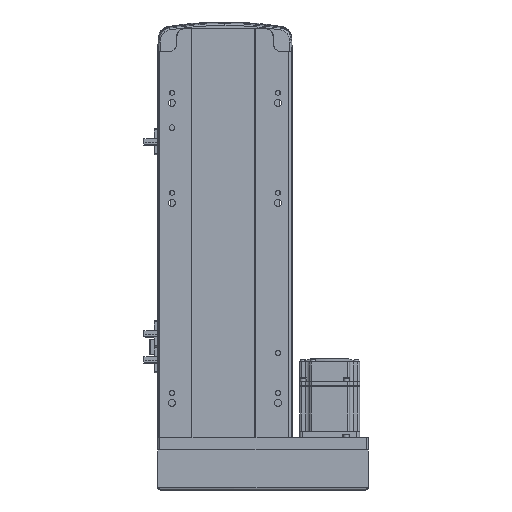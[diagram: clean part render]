
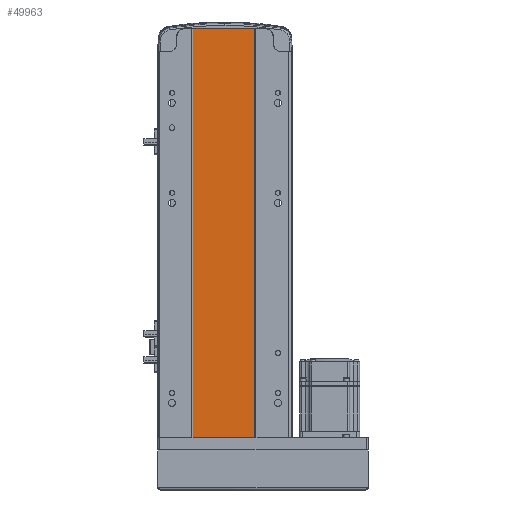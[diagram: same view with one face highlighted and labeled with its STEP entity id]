
A CAD part, front view. The second image highlights one B-rep face of the part: STEP entity #49963.
In plain terms, the highlighted planar face has unit normal (0, -1, 0).
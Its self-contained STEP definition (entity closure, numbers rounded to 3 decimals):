
#62 = VECTOR ( 'NONE', #41345, 1000. ) ;
#1499 = VERTEX_POINT ( 'NONE', #5863 ) ;
#2603 = ORIENTED_EDGE ( 'NONE', *, *, #52447, .F. ) ;
#3300 = DIRECTION ( 'NONE',  ( 0., 1., 0. ) ) ;
#3337 = CARTESIAN_POINT ( 'NONE',  ( -32., 1., 0. ) ) ;
#3687 = DIRECTION ( 'NONE',  ( 0., 0., -1. ) ) ;
#5863 = CARTESIAN_POINT ( 'NONE',  ( -32., 1., 409. ) ) ;
#9565 = VECTOR ( 'NONE', #24644, 1000. ) ;
#11767 = EDGE_CURVE ( 'NONE', #1499, #26610, #21694, .T. ) ;
#13292 = LINE ( 'NONE', #46782, #44535 ) ;
#16323 = EDGE_CURVE ( 'NONE', #1499, #52529, #13292, .T. ) ;
#18577 = LINE ( 'NONE', #32638, #62 ) ;
#21694 = LINE ( 'NONE', #25447, #45457 ) ;
#24542 = ORIENTED_EDGE ( 'NONE', *, *, #16323, .F. ) ;
#24627 = CARTESIAN_POINT ( 'NONE',  ( 30., 1., 409. ) ) ;
#24644 = DIRECTION ( 'NONE',  ( 1., 0., 0. ) ) ;
#25253 = DIRECTION ( 'NONE',  ( -1., 0., 0. ) ) ;
#25447 = CARTESIAN_POINT ( 'NONE',  ( -32., 1., 409. ) ) ;
#26610 = VERTEX_POINT ( 'NONE', #53383 ) ;
#29523 = DIRECTION ( 'NONE',  ( 1., 0., 0. ) ) ;
#29970 = LINE ( 'NONE', #3337, #9565 ) ;
#32638 = CARTESIAN_POINT ( 'NONE',  ( 30., 1., 409. ) ) ;
#37586 = ORIENTED_EDGE ( 'NONE', *, *, #11767, .T. ) ;
#37662 = VERTEX_POINT ( 'NONE', #47839 ) ;
#38162 = CARTESIAN_POINT ( 'NONE',  ( -32., 1., 409. ) ) ;
#40563 = EDGE_CURVE ( 'NONE', #26610, #37662, #29970, .T. ) ;
#41345 = DIRECTION ( 'NONE',  ( 0., 0., -1. ) ) ;
#44535 = VECTOR ( 'NONE', #29523, 1000. ) ;
#45457 = VECTOR ( 'NONE', #3687, 1000. ) ;
#46782 = CARTESIAN_POINT ( 'NONE',  ( -32., 1., 409. ) ) ;
#46891 = FACE_OUTER_BOUND ( 'NONE', #51411, .T. ) ;
#47836 = PLANE ( 'NONE',  #55554 ) ;
#47839 = CARTESIAN_POINT ( 'NONE',  ( 30., 1., 0. ) ) ;
#49963 = ADVANCED_FACE ( 'NONE', ( #46891 ), #47836, .F. ) ;
#51145 = ORIENTED_EDGE ( 'NONE', *, *, #40563, .T. ) ;
#51411 = EDGE_LOOP ( 'NONE', ( #51145, #2603, #24542, #37586 ) ) ;
#52447 = EDGE_CURVE ( 'NONE', #52529, #37662, #18577, .T. ) ;
#52529 = VERTEX_POINT ( 'NONE', #24627 ) ;
#53383 = CARTESIAN_POINT ( 'NONE',  ( -32., 1., 0. ) ) ;
#55554 = AXIS2_PLACEMENT_3D ( 'NONE', #38162, #3300, #25253 ) ;
